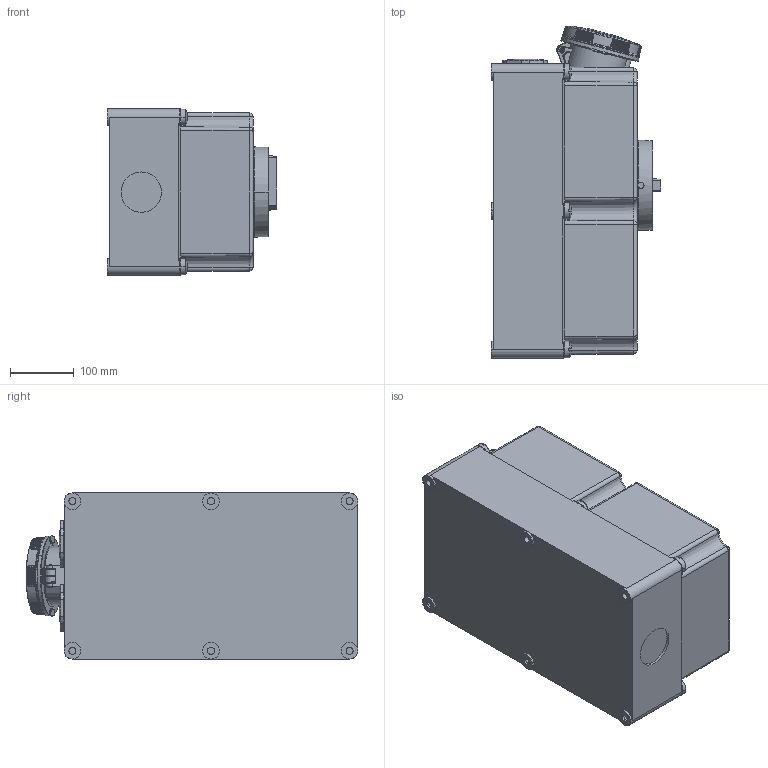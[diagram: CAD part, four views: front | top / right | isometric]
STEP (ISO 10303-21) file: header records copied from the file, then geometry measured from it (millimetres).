
FILE_DESCRIPTION((''),'2;1');
FILE_NAME('5692A_SW0001','2018-04-24T',('gisse'),('MENNEKES'),'PRO/ENGINEER BY PARAMETRIC TECHNOLOGY CORPORATION, 2015440','PRO/ENGINEER BY PARAMETRIC TECHNOLOGY CORPORATION, 2015440','');
FILE_SCHEMA(('AUTOMOTIVE_DESIGN { 1 0 10303 214 1 1 1 1 }'));
Products named in the file (1): 5692A_SW0001
Bounding box: 265.9 x 519.43 x 260 mm (x, y, z)
Volume: 26179168.3 mm3; surface area: 643234.5 mm2
Topology: 1 solids, 1 shells, 1930 faces, 4750 edges, 3319 vertices
Faces by surface type: torus 557, plane 522, bspline 262, cylinder 217, extrusion 203, cone 105, sphere 64
Entity records: 126260 total; most frequent: CARTESIAN_POINT 46040, ORIENTED_EDGE 9496, DIRECTION 6944, PRESENTATION_STYLE_ASSIGNMENT 6858, STYLED_ITEM 4952, CURVE_STYLE 4951, EDGE_CURVE 4748, FILL_AREA_STYLE_COLOUR 3770
